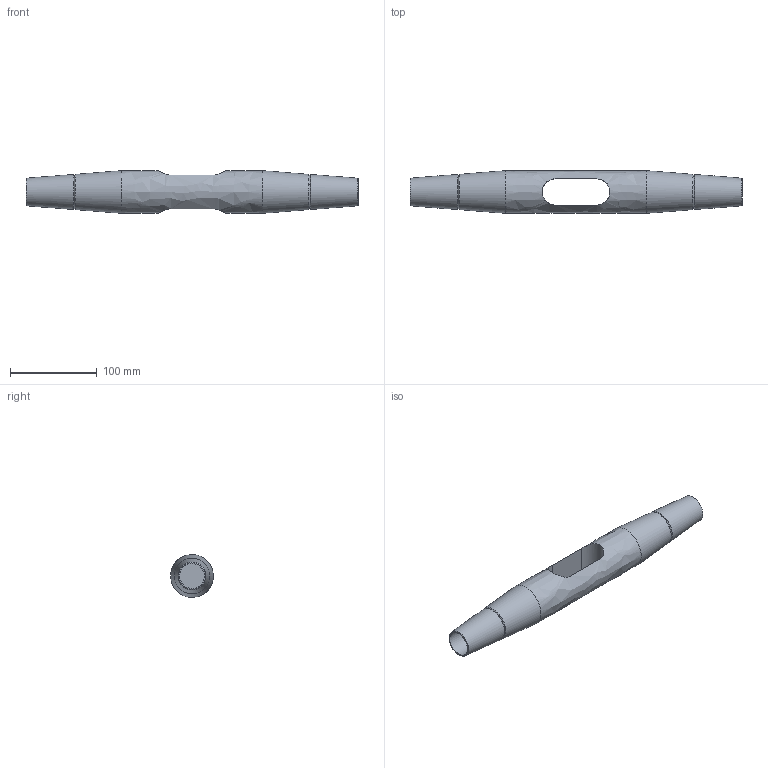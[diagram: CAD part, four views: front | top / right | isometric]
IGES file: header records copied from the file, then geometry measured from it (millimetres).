
Global section: file name: 520-027-KMF; native system: Autodesk Inventor 2016; preprocessor: unknown; author: Administrator; date: 20200702.132025; units: centimetre
Bounding box: 382 x 49 x 49 mm (x, y, z)
Volume: 439655.8 mm3; surface area: 65504.9 mm2
Topology: 1 solids, 1 shells, 21 faces, 55 edges, 38 vertices
Faces by surface type: bspline 21
